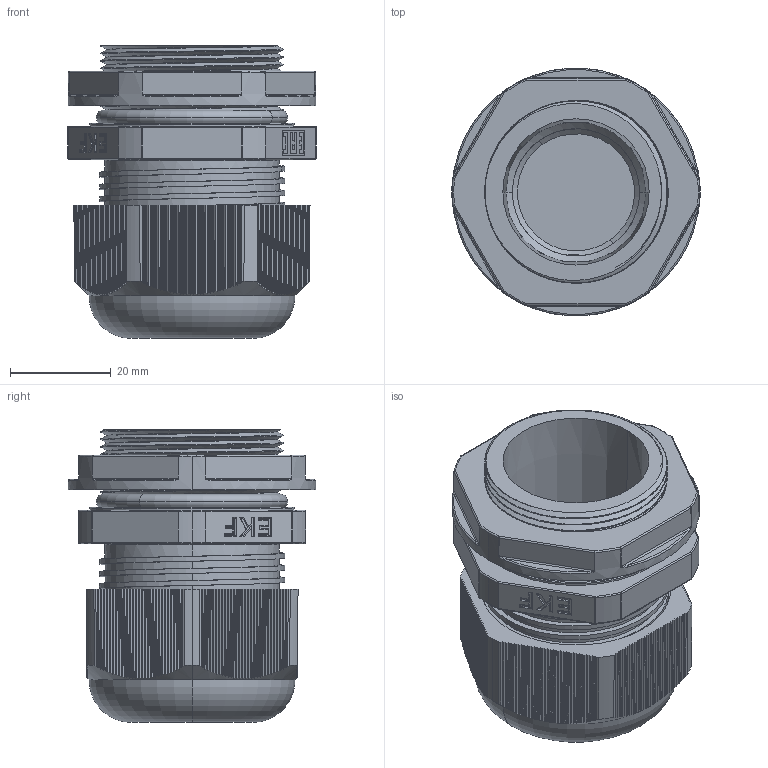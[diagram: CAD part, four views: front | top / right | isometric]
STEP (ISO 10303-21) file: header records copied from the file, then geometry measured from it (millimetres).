
FILE_DESCRIPTION (( 'STEP AP203' ), '1' );
FILE_NAME ('plc-pg-29-00.00.000ÑÁ Ñàëüíèê PG29 #cable gland PG29#.STEP', '2024-02-27T10:12:59', ( '' ), ( '' ), 'SwSTEP 2.0', 'SolidWorks 2021', '' );
FILE_SCHEMA (( 'CONFIG_CONTROL_DESIGN' ));
Length unit declared in the file: millimetre
Products named in the file (6): plc-pg-29-00.00.005 ﾌ瑙趺 (PG29) #sealing ring (PG29)#; plc-pg-29-00.00.001 昢膼瘔 (PG29) #base (PG29)#; plc-pg-29-00.00.003 Ãàéêà ïðèæèìíàÿ (PG29-Ì36) #clamping nut (PG29-M36)#; plc-pg-29-00.00.004 Óïëîòíèòåëü (PG29) #sealant (PG29)#_¤®à ¡®âª ; plc-pg-29-00.00.000ÑÁ Ñàëüíèê PG29 #cable gland PG29#; plc-pg-29-00.00.002 Ãàéêà öàíãîâàÿ (PG29) #collet nut (PG29)#
Assembly tree (5 placements, depth 2):
  plc-pg-29-00.00.000ÑÁ Ñàëüíèê PG29 #cable gland PG29#
    plc-pg-29-00.00.001 昢膼瘔 (PG29) #base (PG29)#
    plc-pg-29-00.00.002 Ãàéêà öàíãîâàÿ (PG29) #collet nut (PG29)#
    plc-pg-29-00.00.003 Ãàéêà ïðèæèìíàÿ (PG29-Ì36) #clamping nut (PG29-M36)#
    plc-pg-29-00.00.004 Óïëîòíèòåëü (PG29) #sealant (PG29)#_¤®à ¡®âª 
    plc-pg-29-00.00.005 ﾌ瑙趺 (PG29) #sealing ring (PG29)#
Bounding box: 49.22 x 49.11 x 57.98 mm (x, y, z)
Volume: 41733.2 mm3; surface area: 35772.7 mm2
Topology: 5 solids, 9 shells, 1246 faces, 3434 edges, 2207 vertices
Faces by surface type: plane 679, cylinder 212, cone 140, bspline 89, torus 88, sphere 38
Entity records: 68873 total; most frequent: CARTESIAN_POINT 39295, ORIENTED_EDGE 6852, DIRECTION 5007, EDGE_CURVE 3426, VERTEX_POINT 2207, AXIS2_PLACEMENT_3D 1724, VECTOR 1559, LINE 1559
